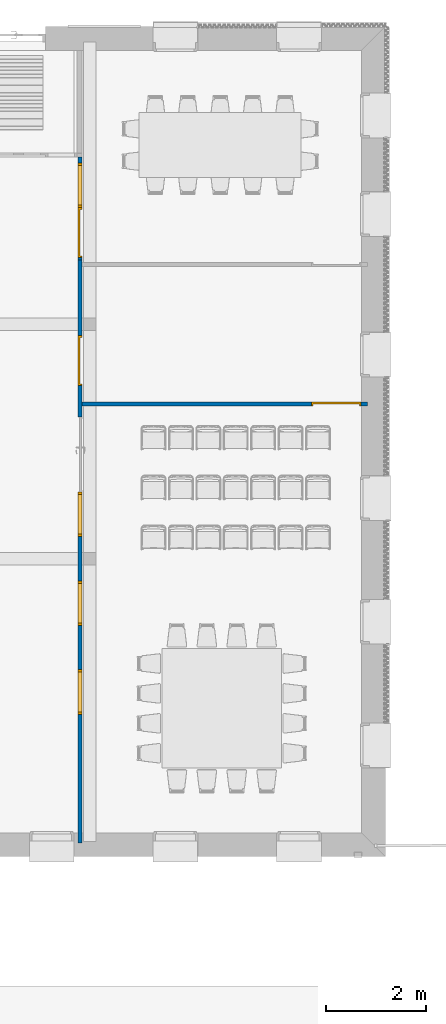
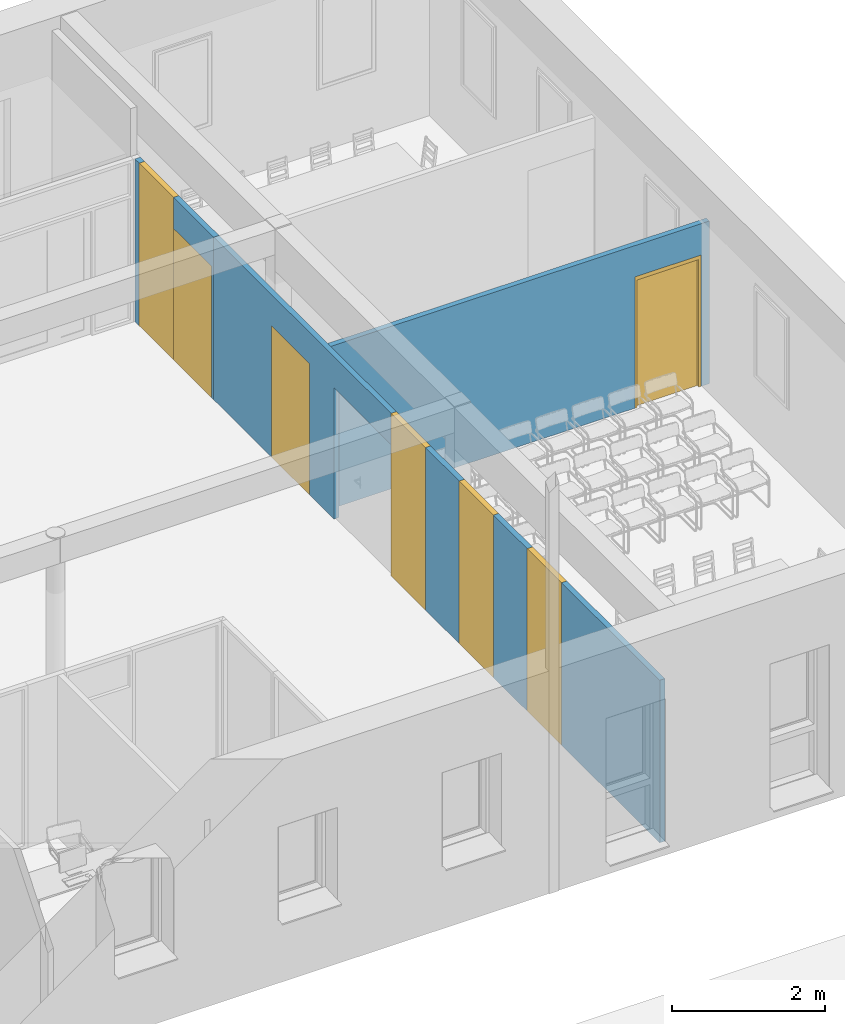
# One storey, part 28 of 91: 4 windows, 3 doors, 3 walls, 8 openings.
"""IFC2X3 building model written with IfcOpenShell, lengths in metres."""

from ifc_helpers import new_model, entity, si_unit, converted_unit, derived_unit, money_unit, direction, frame, origin_with_axes, origin_2d_with_axis, place, context, subcontext, project, spatial, polyline, rectangle, outline, extrude, open_shell, faceted_brep, surface_model, source, transform, mapped, material, layer, layer_set, layer_usage, type_object, element, fill, save


model = new_model("IFC2X3")

# Units and contexts
model_context = context("Model", 3, precision=1e-05, world=origin_with_axes(), true_north=direction((0.0, 1.0)))
body_context = subcontext(model_context, "Body", "Model", "MODEL_VIEW")
ifc_project = project(units=[si_unit("LENGTHUNIT", "METRE"), si_unit("AREAUNIT", "SQUARE_METRE"), si_unit("VOLUMEUNIT", "CUBIC_METRE"), converted_unit("PLANEANGLEUNIT", "DEGREE", entity("IfcPlaneAngleMeasure", 0.0174532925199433), si_unit("PLANEANGLEUNIT", "RADIAN"), dimensions=[0, 0, 0, 0, 0, 0, 0]), money_unit("EUR"), converted_unit("TIMEUNIT", "Year", entity("IfcTimeMeasure", 31557600.0), si_unit("TIMEUNIT", "SECOND"), dimensions=[0, 0, 1, 0, 0, 0, 0]), si_unit("MASSUNIT", "GRAM", prefix="KILO"), si_unit("THERMODYNAMICTEMPERATUREUNIT", "DEGREE_CELSIUS"), si_unit("LUMINOUSINTENSITYUNIT", "LUMEN"), si_unit("ENERGYUNIT", "JOULE", prefix="MEGA"), derived_unit("THERMALCONDUCTANCEUNIT", [(si_unit("POWERUNIT", "WATT"), 1), (si_unit("LENGTHUNIT", "METRE"), -1), (si_unit("THERMODYNAMICTEMPERATUREUNIT", "KELVIN"), -1)]), derived_unit("SPECIFICHEATCAPACITYUNIT", [(si_unit("ENERGYUNIT", "JOULE"), 1), (si_unit("MASSUNIT", "GRAM", prefix="KILO"), -1), (si_unit("THERMODYNAMICTEMPERATUREUNIT", "KELVIN"), -1)]), derived_unit("MASSDENSITYUNIT", [(si_unit("MASSUNIT", "GRAM", prefix="KILO"), 1), (si_unit("VOLUMEUNIT", "CUBIC_METRE"), -1)])], contexts=[model_context])

# Site, building, storey
site_placement = place(None, origin_with_axes())
site = spatial("IfcSite", under=ifc_project, at=site_placement, Name="Site", CompositionType="ELEMENT")
building_placement = place(site_placement, origin_with_axes())
building = spatial("IfcBuilding", under=site, at=building_placement, Name="Bâtiment", CompositionType="ELEMENT")
storey_placement = place(building_placement, origin_with_axes())
storey = spatial("IfcBuildingStorey", under=building, at=storey_placement, Name="RDC", CompositionType="ELEMENT", Elevation=0.0)

# Wall, openings, door, window
ifc_material = material(Name="*PLAQUE DE PLATRE - CLOISON")
ifc_layer = layer(ifc_material, 0.08, ventilated="UNKNOWN")
ifc_layer_set = layer_set([ifc_layer], Name="*PLAQUE DE PLATRE - CLOISON 0.08")
ifc_layer_usage_1 = layer_usage(ifc_layer_set, "AXIS2", "POSITIVE", 0.0)
wall_type = type_object("IfcWallType", Name="*PLAQUE DE PLATRE - CLOISON 80", PredefinedType="NOTDEFINED")
wall_1_placement = place(storey_placement, frame((54.10699999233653, -13.40056213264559, 0.0), z_axis=(0.0, 0.0, 1.0), x_axis=(0.0, -1.0, 0.0)))
wall_1 = element("IfcWallStandardCase", 1, at=wall_1_placement, inside=storey, type_object=wall_type, material=ifc_layer_usage_1, Name="Cloison modulaire", context=body_context, shape_type="SweptSolid", body=[
    extrude(outline(polyline([(0.0, 0.0), (2.064000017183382, 0.0), (2.064000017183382, 0.0799999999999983), (0.0, 0.0799999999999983), (0.0, 0.0)])), origin_with_axes(), (0.0, 0.0, 1.0), 2.6),
])
opening_1_placement = place(wall_1_placement, frame((0.5640000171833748, 0.0, 0.0), z_axis=(0.0, 0.0, 1.0), x_axis=(1.0, 0.0, 0.0)))
opening_1 = element("IfcOpeningElement", 2, at=opening_1_placement, cuts=wall_1, Name="CH.1+vitrophanie", context=body_context, shape_type="SweptSolid", body=[
    extrude(rectangle(XDim=0.8999999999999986, YDim=2.6, at=origin_2d_with_axis()), frame((0.0, 0.0799999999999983, 1.3), z_axis=(0.0, 1.0, 0.0), x_axis=(1.0, 0.0, 0.0)), (0.0, 0.0, -1.0), 0.24),
])
opening_2_placement = place(wall_1_placement, frame((1.514000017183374, 0.0, 0.0), z_axis=(0.0, 0.0, 1.0), x_axis=(1.0, 0.0, 0.0)))
opening_2 = element("IfcOpeningElement", 3, at=opening_2_placement, cuts=wall_1, Name="Pi.01", context=body_context, shape_type="SweptSolid", body=[
    extrude(rectangle(XDim=1.0, YDim=2.1, at=origin_2d_with_axis()), frame((0.0, -0.0799999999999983, 1.05), z_axis=(0.0, 1.0, 0.0), x_axis=(-1.0, 0.0, 0.0)), (0.0, 0.0, 1.0), 0.24),
])
door_style = type_object("IfcDoorStyle", Name="Porte 27", ConstructionType="NOTDEFINED", OperationType="SINGLE_SWING_RIGHT", ParameterTakesPrecedence=False, Sizeable=False)
shared_shape_1 = source(origin_with_axes(), body_context, "Body", "Brep", [
    faceted_brep([(-0.465, -0.04, 0.0), (-0.465, -0.04, 2.04), (-0.465, -0.08, 2.04), (-0.465, -0.08, 0.0), (-0.495, -0.04, 2.04), (-0.495, -0.04, 0.0), (-0.495, 0.0, 2.04), (-0.5, 0.0, 2.04), (-0.5, -0.08, 2.04), (-0.5, -0.08, 0.0), (-0.5, 0.0, 0.0), (-0.495, 0.0, 0.0)], [[[0, 1, 2, 3]], [[4, 1, 0, 5]], [[4, 6, 7, 8, 2, 1]], [[3, 2, 8, 9]], [[5, 0, 3, 9, 10, 11]], [[6, 4, 5, 11]], [[6, 11, 10, 7]], [[10, 9, 8, 7]]]),
    faceted_brep([(0.495, -0.04, 2.04), (0.465, -0.04, 2.04), (0.465, -0.08, 2.04), (0.5, -0.08, 2.04), (0.5, 0.0, 2.04), (0.495, 0.0, 2.04), (0.495, -0.04, 0.0), (0.465, -0.04, 0.0), (0.465, -0.08, 0.0), (0.5, -0.08, 0.0), (0.5, 0.0, 0.0), (0.495, 0.0, 0.0)], [[[0, 1, 2, 3, 4, 5]], [[1, 0, 6, 7]], [[1, 7, 8, 2]], [[3, 2, 8, 9]], [[4, 3, 9, 10]], [[11, 5, 4, 10]], [[0, 5, 11, 6]], [[6, 11, 10, 9, 8, 7]]]),
    faceted_brep([(-0.495, 0.0, 2.07), (-0.495, 0.0, 2.04), (-0.5, 0.0, 2.04), (-0.5, 0.0, 2.1), (0.5, 0.0, 2.1), (0.5, 0.0, 2.04), (0.495, 0.0, 2.04), (0.495, 0.0, 2.07), (-0.495, -0.04, 2.07), (-0.495, -0.04, 2.04), (-0.465, -0.04, 2.04), (-0.465, -0.08, 2.04), (-0.5, -0.08, 2.04), (-0.5, -0.08, 2.1), (0.5, -0.08, 2.1), (0.5, -0.08, 2.04), (0.495, -0.04, 2.04), (0.465, -0.08, 2.04), (0.465, -0.04, 2.04), (0.495, -0.04, 2.07)], [[[0, 1, 2, 3, 4, 5, 6, 7]], [[1, 0, 8, 9]], [[9, 10, 11, 12, 2, 1]], [[2, 12, 13, 3]], [[3, 13, 14, 4]], [[4, 14, 15, 5]], [[16, 6, 5, 15, 17, 18]], [[7, 6, 16, 19]], [[0, 7, 19, 8]], [[16, 18, 10, 9, 8, 19]], [[10, 18, 17, 11]], [[17, 15, 14, 13, 12, 11]]]),
    faceted_brep([(0.495, 0.0, 0.0), (0.495, -0.04, 0.0), (-0.495, -0.04, 0.0), (-0.495, 0.0, 0.0), (0.495, 0.0, 2.07), (0.495, -0.04000000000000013, 2.07), (-0.495, -0.04000000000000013, 2.07), (-0.495, 0.0, 2.07)], [[[0, 1, 2, 3]], [[4, 5, 1, 0]], [[1, 5, 6, 2]], [[3, 2, 6, 7]], [[0, 3, 7, 4]], [[7, 6, 5, 4]]]),
])
door_1_placement = place(opening_2_placement, frame((0.5, 0.0, 0.0), z_axis=(0.0, 0.0, 1.0), x_axis=(-1.0, 0.0, 0.0)))
door_1 = element("IfcDoor", 4, at=door_1_placement, inside=storey, type_object=door_style, Name="Pi.01", OverallHeight=2.1, OverallWidth=1.0, context=body_context, shape_type="MappedRepresentation", body=[
    mapped(shared_shape_1, transform((0.5, 0.0, 0.0))),
])
fill(opening_2, door_1)
window_style = type_object("IfcWindowStyle", Name="Fenêtre 27", ConstructionType="NOTDEFINED", OperationType="SINGLE_PANEL", ParameterTakesPrecedence=False, Sizeable=False)
shared_shape_2 = source(origin_with_axes(), body_context, "Body", "SurfaceModel", [
    faceted_brep([(0.4, -0.08000000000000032, 2.55), (0.45, -0.08000000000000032, 2.6), (0.45, 0.0, 2.6), (0.4, 0.0, 2.55), (0.4, -0.08, 0.05), (0.45, -0.08, 0.0), (0.45, 0.0, 0.0), (0.4, 0.0, 0.05)], [[[0, 1, 2, 3]], [[0, 4, 5, 1]], [[1, 5, 6, 2]], [[3, 2, 6, 7]], [[4, 0, 3, 7]], [[5, 4, 7, 6]]]),
    faceted_brep([(-0.4, -0.08, 0.05), (-0.45, -0.08, 0.0), (-0.45, 0.0, 0.0), (-0.4, 0.0, 0.05), (-0.4, -0.08000000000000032, 2.55), (-0.45, -0.08000000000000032, 2.6), (-0.45, 0.0, 2.6), (-0.4, 0.0, 2.55)], [[[0, 1, 2, 3]], [[0, 4, 5, 1]], [[1, 5, 6, 2]], [[3, 2, 6, 7]], [[4, 0, 3, 7]], [[5, 4, 7, 6]]]),
    faceted_brep([(0.4, -0.08, 0.05), (0.45, -0.08, 0.0), (0.45, 0.0, 0.0), (0.4, 0.0, 0.05), (-0.4, -0.08, 0.05), (-0.45, -0.08, 0.0), (-0.45, 0.0, 0.0), (-0.4, 0.0, 0.05)], [[[0, 1, 2, 3]], [[0, 4, 5, 1]], [[1, 5, 6, 2]], [[3, 2, 6, 7]], [[4, 0, 3, 7]], [[5, 4, 7, 6]]]),
    faceted_brep([(-0.4, -0.08000000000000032, 2.55), (-0.45, -0.08000000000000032, 2.6), (-0.45, 0.0, 2.6), (-0.4, 0.0, 2.55), (0.4, -0.08000000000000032, 2.55), (0.45, -0.08000000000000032, 2.6), (0.45, 0.0, 2.6), (0.4, 0.0, 2.55)], [[[0, 1, 2, 3]], [[0, 4, 5, 1]], [[1, 5, 6, 2]], [[3, 2, 6, 7]], [[4, 0, 3, 7]], [[5, 4, 7, 6]]]),
    surface_model("IfcShellBasedSurfaceModel", [(0.4, -0.02, 0.05000000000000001), (0.4, -0.02000000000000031, 2.55), (-0.4, -0.02000000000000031, 2.55), (-0.4, -0.02, 0.05000000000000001)], [open_shell([[[0, 1, 2, 3]]])]),
    surface_model("IfcShellBasedSurfaceModel", [(0.4, 0.0, 0.05000000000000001), (-0.4, 0.0, 0.05000000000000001), (-0.4, 0.0, 2.55), (0.4, 0.0, 2.55)], [open_shell([[[0, 1, 2, 3]]])]),
])
window_1_placement = place(opening_1_placement, frame((0.4499999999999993, 0.0, 0.0), z_axis=(0.0, 0.0, 1.0), x_axis=(-1.0, 0.0, 0.0)))
window_1 = element("IfcWindow", 5, at=window_1_placement, inside=storey, type_object=window_style, Name="CH.1+vitrophanie", OverallHeight=2.6, OverallWidth=0.9, context=body_context, shape_type="MappedRepresentation", body=[
    mapped(shared_shape_2, transform((0.4499999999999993, 0.0, 0.0))),
])
fill(opening_1, window_1)

# Wall, openings, windows, door
ifc_layer_usage_2 = layer_usage(ifc_layer_set, "AXIS2", "NEGATIVE", 0.0)
wall_2_placement = place(storey_placement, frame((54.18699998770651, -15.46456214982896, 0.0), z_axis=(0.0, 0.0, 1.0), x_axis=(0.0, -1.0, 0.0)))
wall_2 = element("IfcWallStandardCase", 6, at=wall_2_placement, inside=storey, type_object=wall_type, material=ifc_layer_usage_2, Name="Cloison modulaire", context=body_context, shape_type="SweptSolid", body=[
    extrude(outline(polyline([(0.0, -0.0799999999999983), (11.69300000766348, -0.0799999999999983), (11.69300000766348, 0.0), (0.0, 0.0), (0.0, -0.0799999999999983)])), origin_with_axes(), (0.0, 0.0, 1.0), 2.6),
])
opening_3_placement = place(wall_2_placement, frame((6.885022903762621, 0.0, 0.0), z_axis=(0.0, 0.0, 1.0), x_axis=(1.0, 0.0, 0.0)))
opening_3 = element("IfcOpeningElement", 7, at=opening_3_placement, cuts=wall_2, Name="CH.1+vitrophanie", context=body_context, shape_type="SweptSolid", body=[
    extrude(rectangle(XDim=0.8999999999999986, YDim=2.6, at=origin_2d_with_axis()), frame((0.0, 0.0799999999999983, 1.3), z_axis=(0.0, -1.0, 0.0), x_axis=(-1.0, 0.0, 0.0)), (0.0, 0.0, 1.0), 0.24),
])
opening_4_placement = place(wall_2_placement, frame((8.669063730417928, 0.0, 0.0), z_axis=(0.0, 0.0, 1.0), x_axis=(1.0, 0.0, 0.0)))
opening_4 = element("IfcOpeningElement", 8, at=opening_4_placement, cuts=wall_2, Name="CH.1+vitrophanie", context=body_context, shape_type="SweptSolid", body=[
    extrude(rectangle(XDim=0.8999999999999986, YDim=2.6, at=origin_2d_with_axis()), frame((0.0, 0.0799999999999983, 1.3), z_axis=(0.0, -1.0, 0.0), x_axis=(-1.0, 0.0, 0.0)), (0.0, 0.0, 1.0), 0.24),
])
opening_5_placement = place(wall_2_placement, frame((3.900982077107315, 0.0, 0.0), z_axis=(0.0, 0.0, 1.0), x_axis=(1.0, 0.0, 0.0)))
element("IfcOpeningElement", 9, at=opening_5_placement, cuts=wall_2, Name="Pi.02", context=body_context, shape_type="SweptSolid", body=[
    extrude(rectangle(XDim=1.5, YDim=2.1, at=origin_2d_with_axis()), frame((0.0, -0.0799999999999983, 1.05), z_axis=(0.0, -1.0, 0.0), x_axis=(1.0, 0.0, 0.0)), (0.0, 0.0, -1.0), 0.24),
])
opening_6_placement = place(wall_2_placement, frame((2.01799999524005, 0.0, 0.0), z_axis=(0.0, 0.0, 1.0), x_axis=(1.0, 0.0, 0.0)))
opening_6 = element("IfcOpeningElement", 10, at=opening_6_placement, cuts=wall_2, Name="Pi.01", context=body_context, shape_type="SweptSolid", body=[
    extrude(rectangle(XDim=1.0, YDim=2.1, at=origin_2d_with_axis()), frame((0.0, 0.0799999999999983, 1.05), z_axis=(0.0, -1.0, 0.0), x_axis=(-1.0, 0.0, 0.0)), (0.0, 0.0, 1.0), 0.24),
])
opening_7_placement = place(wall_2_placement, frame((5.100982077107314, 0.0, 0.0), z_axis=(0.0, 0.0, 1.0), x_axis=(1.0, 0.0, 0.0)))
opening_7 = element("IfcOpeningElement", 11, at=opening_7_placement, cuts=wall_2, Name="CH.1+vitrophanie", context=body_context, shape_type="SweptSolid", body=[
    extrude(rectangle(XDim=0.8999999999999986, YDim=2.6, at=origin_2d_with_axis()), frame((0.0, 0.0799999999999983, 1.3), z_axis=(0.0, -1.0, 0.0), x_axis=(-1.0, 0.0, 0.0)), (0.0, 0.0, 1.0), 0.24),
])
shared_shape_3 = source(origin_with_axes(), body_context, "Body", "SurfaceModel", [
    faceted_brep([(-0.4, -0.08000000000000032, 2.55), (-0.4, 0.0, 2.55), (-0.45, 0.0, 2.6), (-0.45, -0.08000000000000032, 2.6), (-0.4, -0.08, 0.05), (-0.4, 0.0, 0.05), (-0.45, 0.0, 0.0), (-0.45, -0.08, 0.0)], [[[0, 1, 2, 3]], [[4, 5, 1, 0]], [[1, 5, 6, 2]], [[3, 2, 6, 7]], [[0, 3, 7, 4]], [[7, 6, 5, 4]]]),
    faceted_brep([(0.4, -0.08, 0.05), (0.4, 0.0, 0.05), (0.45, 0.0, 0.0), (0.45, -0.08, 0.0), (0.4, -0.08000000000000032, 2.55), (0.4, 0.0, 2.55), (0.45, 0.0, 2.6), (0.45, -0.08000000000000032, 2.6)], [[[0, 1, 2, 3]], [[4, 5, 1, 0]], [[1, 5, 6, 2]], [[3, 2, 6, 7]], [[0, 3, 7, 4]], [[7, 6, 5, 4]]]),
    faceted_brep([(-0.4, -0.08, 0.05), (-0.4, 0.0, 0.05), (-0.45, 0.0, 0.0), (-0.45, -0.08, 0.0), (0.4, -0.08, 0.05), (0.4, 0.0, 0.05), (0.45, 0.0, 0.0), (0.45, -0.08, 0.0)], [[[0, 1, 2, 3]], [[4, 5, 1, 0]], [[1, 5, 6, 2]], [[3, 2, 6, 7]], [[0, 3, 7, 4]], [[7, 6, 5, 4]]]),
    faceted_brep([(0.4, -0.08000000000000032, 2.55), (0.4, 0.0, 2.55), (0.45, 0.0, 2.6), (0.45, -0.08000000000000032, 2.6), (-0.4, -0.08000000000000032, 2.55), (-0.4, 0.0, 2.55), (-0.45, 0.0, 2.6), (-0.45, -0.08000000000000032, 2.6)], [[[0, 1, 2, 3]], [[4, 5, 1, 0]], [[1, 5, 6, 2]], [[3, 2, 6, 7]], [[0, 3, 7, 4]], [[7, 6, 5, 4]]]),
    surface_model("IfcShellBasedSurfaceModel", [(-0.4, -0.02, 0.05000000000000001), (0.4, -0.02, 0.05000000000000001), (0.4, -0.02000000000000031, 2.55), (-0.4, -0.02000000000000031, 2.55)], [open_shell([[[0, 1, 2, 3]]])]),
    surface_model("IfcShellBasedSurfaceModel", [(-0.4, 0.0, 0.05000000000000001), (-0.4, 0.0, 2.55), (0.4, 0.0, 2.55), (0.4, 0.0, 0.05000000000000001)], [open_shell([[[0, 1, 2, 3]]])]),
])
window_2_placement = place(opening_7_placement, frame((0.4499999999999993, 0.0, 0.0), z_axis=(0.0, 0.0, 1.0), x_axis=(-1.0, 0.0, 0.0)))
window_2 = element("IfcWindow", 12, at=window_2_placement, inside=storey, type_object=window_style, Name="CH.1+vitrophanie", OverallHeight=2.6, OverallWidth=0.9, context=body_context, shape_type="MappedRepresentation", body=[
    mapped(shared_shape_3, transform((0.4499999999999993, 0.0799999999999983, 0.0))),
])
fill(opening_7, window_2)
window_3_placement = place(opening_3_placement, frame((0.4499999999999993, 0.0, 0.0), z_axis=(0.0, 0.0, 1.0), x_axis=(-1.0, 0.0, 0.0)))
window_3 = element("IfcWindow", 13, at=window_3_placement, inside=storey, type_object=window_style, Name="CH.1+vitrophanie", OverallHeight=2.6, OverallWidth=0.9, context=body_context, shape_type="MappedRepresentation", body=[
    mapped(shared_shape_3, transform((0.4499999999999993, 0.0799999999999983, 0.0))),
])
fill(opening_3, window_3)
window_4_placement = place(opening_4_placement, frame((0.4499999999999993, 0.0, 0.0), z_axis=(0.0, 0.0, 1.0), x_axis=(-1.0, 0.0, 0.0)))
window_4 = element("IfcWindow", 14, at=window_4_placement, inside=storey, type_object=window_style, Name="CH.1+vitrophanie", OverallHeight=2.6, OverallWidth=0.9, context=body_context, shape_type="MappedRepresentation", body=[
    mapped(shared_shape_3, transform((0.4499999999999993, 0.0799999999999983, 0.0))),
])
fill(opening_4, window_4)
shared_shape_4 = source(origin_with_axes(), body_context, "Body", "Brep", [
    faceted_brep([(-0.465, -0.04, 0.0), (-0.465, -0.04, 2.04), (-0.465, -0.08, 2.04), (-0.465, -0.08, 0.0), (-0.495, -0.04, 2.04), (-0.495, -0.04, 0.0), (-0.495, 0.0, 2.04), (-0.5, 0.0, 2.04), (-0.5, -0.08, 2.04), (-0.5, -0.08, 0.0), (-0.5, 0.0, 0.0), (-0.495, 0.0, 0.0)], [[[0, 1, 2, 3]], [[4, 1, 0, 5]], [[4, 6, 7, 8, 2, 1]], [[3, 2, 8, 9]], [[5, 0, 3, 9, 10, 11]], [[6, 4, 5, 11]], [[6, 11, 10, 7]], [[10, 9, 8, 7]]]),
    faceted_brep([(0.495, -0.04, 2.04), (0.465, -0.04, 2.04), (0.465, -0.08, 2.04), (0.5, -0.08, 2.04), (0.5, 0.0, 2.04), (0.495, 0.0, 2.04), (0.495, -0.04, 0.0), (0.465, -0.04, 0.0), (0.465, -0.08, 0.0), (0.5, -0.08, 0.0), (0.5, 0.0, 0.0), (0.495, 0.0, 0.0)], [[[0, 1, 2, 3, 4, 5]], [[1, 0, 6, 7]], [[1, 7, 8, 2]], [[3, 2, 8, 9]], [[4, 3, 9, 10]], [[11, 5, 4, 10]], [[0, 5, 11, 6]], [[6, 11, 10, 9, 8, 7]]]),
    faceted_brep([(-0.495, 0.0, 2.07), (-0.495, 0.0, 2.04), (-0.5, 0.0, 2.04), (-0.5, 0.0, 2.1), (0.5, 0.0, 2.1), (0.5, 0.0, 2.04), (0.495, 0.0, 2.04), (0.495, 0.0, 2.07), (-0.495, -0.04, 2.07), (-0.495, -0.04, 2.04), (-0.465, -0.04, 2.04), (-0.465, -0.08, 2.04), (-0.5, -0.08, 2.04), (-0.5, -0.08, 2.1), (0.5, -0.08, 2.1), (0.5, -0.08, 2.04), (0.495, -0.04, 2.04), (0.465, -0.08, 2.04), (0.465, -0.04, 2.04), (0.495, -0.04, 2.07)], [[[0, 1, 2, 3, 4, 5, 6, 7]], [[1, 0, 8, 9]], [[9, 10, 11, 12, 2, 1]], [[2, 12, 13, 3]], [[3, 13, 14, 4]], [[4, 14, 15, 5]], [[16, 6, 5, 15, 17, 18]], [[7, 6, 16, 19]], [[0, 7, 19, 8]], [[16, 18, 10, 9, 8, 19]], [[10, 18, 17, 11]], [[17, 15, 14, 13, 12, 11]]]),
    faceted_brep([(0.495, 0.0, 0.0), (0.495, -0.04, 0.0), (-0.495, -0.04, 0.0), (-0.495, 0.0, 0.0), (0.495, 0.0, 2.07), (0.495, -0.04000000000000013, 2.07), (-0.495, -0.04000000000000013, 2.07), (-0.495, 0.0, 2.07)], [[[0, 1, 2, 3]], [[4, 5, 1, 0]], [[1, 5, 6, 2]], [[3, 2, 6, 7]], [[0, 3, 7, 4]], [[7, 6, 5, 4]]]),
])
door_2_placement = place(opening_6_placement, frame((0.5, 0.0, 0.0), z_axis=(0.0, 0.0, 1.0), x_axis=(-1.0, 0.0, 0.0)))
door_2 = element("IfcDoor", 15, at=door_2_placement, inside=storey, type_object=door_style, Name="Pi.01", OverallHeight=2.1, OverallWidth=1.0, context=body_context, shape_type="MappedRepresentation", body=[
    mapped(shared_shape_4, transform((0.5, 0.0799999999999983, 0.0))),
])
fill(opening_6, door_2)

# Wall, opening, door
ifc_layer_usage_3 = layer_usage(ifc_layer_set, "AXIS2", "POSITIVE", 0.0)
wall_3_placement = place(storey_placement, frame((59.9155, -18.31456214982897, 0.0), z_axis=(0.0, 0.0, 1.0), x_axis=(-1.0, 0.0, 0.0)))
wall_3 = element("IfcWallStandardCase", 16, at=wall_3_placement, inside=storey, type_object=wall_type, material=ifc_layer_usage_3, Name="Cloison modulaire", context=body_context, shape_type="SweptSolid", body=[
    extrude(outline(polyline([(0.0, 0.0), (5.728500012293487, 0.0), (5.728500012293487, 0.0799999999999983), (0.0, 0.0799999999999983), (0.0, 0.0)])), origin_with_axes(), (0.0, 0.0, 1.0), 2.6),
])
opening_8_placement = place(wall_3_placement, frame((0.6255461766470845, 0.0, 0.0), z_axis=(0.0, 0.0, 1.0), x_axis=(1.0, 0.0, 0.0)))
opening_8 = element("IfcOpeningElement", 17, at=opening_8_placement, cuts=wall_3, Name="Pi.01", context=body_context, shape_type="SweptSolid", body=[
    extrude(rectangle(XDim=1.0, YDim=2.1, at=origin_2d_with_axis()), frame((0.0, 0.08000000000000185, 1.05), z_axis=(0.0, -1.0, 0.0), x_axis=(-1.0, 0.0, 0.0)), (0.0, 0.0, 1.0), 0.24),
])
door_3_placement = place(opening_8_placement, frame((0.5, 0.0, 0.0), z_axis=(0.0, 0.0, 1.0), x_axis=(-1.0, 0.0, 0.0)))
door_3 = element("IfcDoor", 18, at=door_3_placement, inside=storey, type_object=door_style, Name="Pi.01", OverallHeight=2.1, OverallWidth=1.0, context=body_context, shape_type="MappedRepresentation", body=[
    mapped(shared_shape_4, transform((0.5, 0.0, 0.0))),
])
fill(opening_8, door_3)

save(model, "model.ifc")
